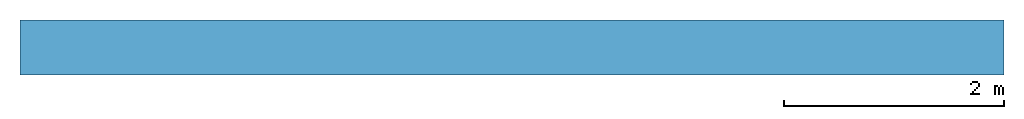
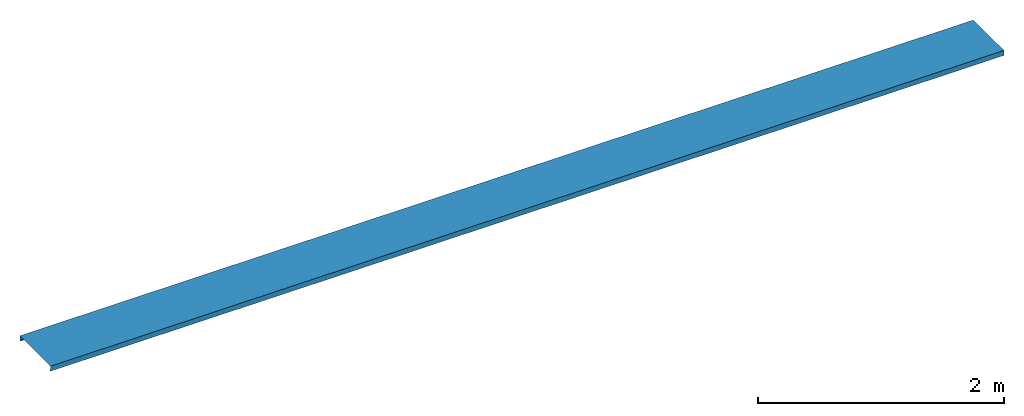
# One storey: 1 beam.
"""IFC4 building model written with IfcOpenShell, lengths in centimetres."""

import ifcopenshell
import ifcopenshell.guid

model = None  # the IFC model being written
_history = None  # IfcOwnerHistory: only IFC2X3 demands one
_inside = {}  # id of a spatial element -> (the spatial element, [elements in it])
_under = {}  # id of a project, library or spatial element -> (it, [spatial elements below it])
_declared = {}  # id of a project -> (the project, [libraries it declares])
_typed = {}  # id of a type object -> (the type object, [elements of that type])
_made_of = {}  # id of a material, layer set ... -> (it, [elements and type objects made of it])


def new_model(schema):
    """Start an empty IFC model of exactly this schema.

    Asked for "IFC4X3", IfcOpenShell would pick the latest addendum, in which some entities
    have other attributes; the version numbers below select the first issue.
    IFC2X3 requires an IfcOwnerHistory on every rooted entity: one is made here for all.
    """
    global model, _history
    if schema == "IFC4X3":
        model = ifcopenshell.file(schema_version=(4, 3, 0, 0))
    else:
        model = ifcopenshell.file(schema=schema)
    _inside.clear()
    _under.clear()
    _declared.clear()
    _typed.clear()
    _made_of.clear()
    _history = None
    if model.schema == "IFC2X3":
        org = make("IfcOrganization", Name="unknown")
        user = make(
            "IfcPersonAndOrganization",
            ThePerson=make("IfcPerson", FamilyName="unknown"),
            TheOrganization=org,
        )
        app = make(
            "IfcApplication",
            ApplicationDeveloper=org,
            Version="unknown",
            ApplicationFullName="unknown",
            ApplicationIdentifier="unknown",
        )
        _history = make(
            "IfcOwnerHistory",
            OwningUser=user,
            OwningApplication=app,
            ChangeAction="ADDED",
            CreationDate=0,
        )
    return model


def make(cls, **values):
    """One entity of the class cls with the attributes given. An attribute that is None is left unset."""
    return model.create_entity(
        cls, **{name: value for name, value in values.items() if value is not None}
    )


def entity(cls, *values):
    """Any entity or typed value of the class cls, its attributes in the order of the schema. None: left unset."""
    e = model.create_entity(cls)
    for i, value in enumerate(values):
        if value is not None:
            e[i] = value
    return e


def rooted(cls, **values):
    """An entity with a GlobalId (a new one), such as an element, a storey or a relation."""
    return make(cls, GlobalId=ifcopenshell.guid.new(), OwnerHistory=_history, **values)


def si_unit(unit_type, name, prefix=None):
    """IfcSIUnit, for example si_unit("LENGTHUNIT", "METRE", prefix="MILLI")."""
    return make("IfcSIUnit", UnitType=unit_type, Prefix=prefix, Name=name)


def converted_unit(unit_type, name, factor, base, dimensions=None, offset=None):
    """IfcConversionBasedUnit, such as the inch: factor (a typed value) times the base unit."""
    return make(
        "IfcConversionBasedUnit"
        if offset is None
        else "IfcConversionBasedUnitWithOffset",
        ConversionOffset=offset,
        Dimensions=None
        if dimensions is None
        else entity("IfcDimensionalExponents", *dimensions),
        UnitType=unit_type,
        Name=name,
        ConversionFactor=make(
            "IfcMeasureWithUnit", ValueComponent=factor, UnitComponent=base
        ),
    )


def assignment(units):
    """IfcUnitAssignment: the units of a project."""
    return None if units is None else make("IfcUnitAssignment", Units=units)


def point(xyz):
    """IfcCartesianPoint."""
    return None if xyz is None else make("IfcCartesianPoint", Coordinates=xyz)


def direction(xyz):
    """IfcDirection."""
    return None if xyz is None else make("IfcDirection", DirectionRatios=xyz)


def frame(location, z_axis=None, x_axis=None):
    """IfcAxis2Placement3D, a coordinate frame: its origin and axes. An axis left out is left unset."""
    return make(
        "IfcAxis2Placement3D",
        Location=point(location),
        Axis=direction(z_axis),
        RefDirection=direction(x_axis),
    )


def origin():
    """The frame at (0, 0, 0) with its axes left unset."""
    return frame((0.0, 0.0, 0.0))


def place(relative_to, where):
    """IfcLocalPlacement: puts the frame where relative to a parent placement (None: the world)."""
    return make(
        "IfcLocalPlacement", PlacementRelTo=relative_to, RelativePlacement=where
    )


def context(
    kind, dimensions, precision=None, world=None, true_north=None, identifier=None
):
    """IfcGeometricRepresentationContext, for example the 3D "Model" context."""
    return make(
        "IfcGeometricRepresentationContext",
        ContextIdentifier=identifier,
        ContextType=kind,
        CoordinateSpaceDimension=dimensions,
        Precision=precision,
        WorldCoordinateSystem=world,
        TrueNorth=true_north,
    )


def subcontext(parent, identifier, kind, view, scale=None):
    """IfcGeometricRepresentationSubContext, for example "Body" below "Model"."""
    return make(
        "IfcGeometricRepresentationSubContext",
        ContextIdentifier=identifier,
        ContextType=kind,
        ParentContext=parent,
        TargetScale=scale,
        TargetView=view,
    )


def project(units=None, contexts=None):
    """IfcProject with its units and contexts."""
    return rooted(
        "IfcProject",
        Name="project",
        RepresentationContexts=contexts,
        UnitsInContext=assignment(units),
    )


def spatial(cls, under=None, at=None, **own):
    """A site, building, storey or space (cls), placed at a placement, below another one or the project."""
    s = rooted(cls, ObjectPlacement=at, **own)
    if under is not None:
        _under.setdefault(under.id(), (under, []))[1].append(s)
    return s


def point_list(points):
    """IfcCartesianPointList2D or 3D."""
    cls = (
        "IfcCartesianPointList2D" if len(points[0]) == 2 else "IfcCartesianPointList3D"
    )
    return make(cls, CoordList=points)


def indexed_curve(points, segments=None, self_intersect=None):
    """IfcIndexedPolyCurve: lines and arcs through numbered points (the first is 1)."""
    return make(
        "IfcIndexedPolyCurve",
        Points=point_list(points),
        Segments=segments,
        SelfIntersect=self_intersect,
    )


def outline(outer, holes=None, kind="AREA"):
    """IfcArbitraryClosedProfileDef: a profile drawn as a closed curve; with holes, ...WithVoids."""
    if holes is None:
        return make("IfcArbitraryClosedProfileDef", ProfileType=kind, OuterCurve=outer)
    return make(
        "IfcArbitraryProfileDefWithVoids",
        ProfileType=kind,
        OuterCurve=outer,
        InnerCurves=holes,
    )


def extrude(swept, where, along, depth):
    """IfcExtrudedAreaSolid: the profile swept, set in the frame where, extruded along a direction by depth."""
    return make(
        "IfcExtrudedAreaSolid",
        SweptArea=swept,
        Position=where,
        ExtrudedDirection=direction(along),
        Depth=depth,
    )


def shape(context_of_items, identifier, shape_type, items):
    """IfcShapeRepresentation: the items that make up one representation, for example the "Body"."""
    return make(
        "IfcShapeRepresentation",
        ContextOfItems=context_of_items,
        RepresentationIdentifier=identifier,
        RepresentationType=shape_type,
        Items=items,
    )


def source(mapping_origin, context_of_items, identifier, shape_type, items):
    """IfcRepresentationMap: a shape defined once, which mapped items show again and again."""
    return make(
        "IfcRepresentationMap",
        MappingOrigin=mapping_origin,
        MappedRepresentation=shape(context_of_items, identifier, shape_type, items),
    )


def transform(
    local_origin,
    x_axis=None,
    y_axis=None,
    z_axis=None,
    scale=None,
    scale2=None,
    scale3=None,
    uniform=True,
):
    """IfcCartesianTransformationOperator3D, or its non-uniform kind. x_axis, y_axis, z_axis: its Axis1, 2, 3."""
    if uniform:
        return make(
            "IfcCartesianTransformationOperator3D",
            Axis1=direction(x_axis),
            Axis2=direction(y_axis),
            LocalOrigin=point(local_origin),
            Scale=scale,
            Axis3=direction(z_axis),
        )
    return make(
        "IfcCartesianTransformationOperator3DnonUniform",
        Axis1=direction(x_axis),
        Axis2=direction(y_axis),
        LocalOrigin=point(local_origin),
        Scale=scale,
        Axis3=direction(z_axis),
        Scale2=scale2,
        Scale3=scale3,
    )


def mapped(mapping_source, mapping_target):
    """IfcMappedItem: shows the shape of a source again, moved by a transform."""
    return make(
        "IfcMappedItem", MappingSource=mapping_source, MappingTarget=mapping_target
    )


def material(Name=None, Category=None):
    """IfcMaterial."""
    return make("IfcMaterial", Name=Name, Category=Category)


def made_of(thing, what):
    """Note that an element or type object is made of a material, layer set ...; save() writes the relation."""
    if what is not None:
        _made_of.setdefault(what.id(), (what, []))[1].append(thing)
    return thing


def type_object(cls, material=None, **own):
    """A type object (cls), such as IfcWallType, which elements share."""
    return made_of(rooted(cls, **own), material)


def type_shapes(of_type, sources):
    """Give a type object the sources (RepresentationMaps) that its elements show as mapped items."""
    of_type.RepresentationMaps = sources


def element(
    cls,
    number,
    at=None,
    inside=None,
    cuts=None,
    type_object=None,
    material=None,
    context=None,
    identifier="Body",
    shape_type=None,
    held_by="IfcProductDefinitionShape",
    body=None,
    shapes=None,
    **own,
):
    """One element of the class cls, such as IfcWall. Its Tag is "e" and its number.

    at: its placement. inside: the storey or other place that contains it. cuts: it is an
    opening in that element (IfcRelVoidsElement). A single representation is given by context,
    identifier, shape_type and body (its items); several are given by shapes. held_by: the class
    of the entity that holds the representations. save() writes the other relations.
    """
    e = rooted(cls, Tag="e%d" % number, ObjectPlacement=at, **own)
    if body is not None:
        shapes = [shape(context, identifier, shape_type, body)]
    if shapes is not None:
        e.Representation = make(held_by, Representations=shapes)
    if inside is not None:
        _inside.setdefault(inside.id(), (inside, []))[1].append(e)
    if cuts is not None:
        rooted(
            "IfcRelVoidsElement", RelatingBuildingElement=cuts, RelatedOpeningElement=e
        )
    if type_object is not None:
        _typed.setdefault(type_object.id(), (type_object, []))[1].append(e)
    return made_of(e, material)


def aggregate(whole, parts):
    """IfcRelAggregates: a whole, such as a stair, and the parts it consists of."""
    return rooted("IfcRelAggregates", RelatingObject=whole, RelatedObjects=parts)


def save(model, path):
    """Write the relations noted so far, then the file.

    IfcRelAggregates (storeys below a building ...), IfcRelContainedInSpatialStructure (elements
    in a storey), IfcRelDefinesByType, IfcRelAssociatesMaterial and IfcRelDeclares: one each for
    every whole, place, type object, material and project.
    """
    for whole, parts in _under.values():
        aggregate(whole, parts)
    for where, things in _inside.values():
        rooted(
            "IfcRelContainedInSpatialStructure",
            RelatedElements=things,
            RelatingStructure=where,
        )
    for kind, things in _typed.values():
        rooted("IfcRelDefinesByType", RelatedObjects=things, RelatingType=kind)
    for what, things in _made_of.values():
        rooted("IfcRelAssociatesMaterial", RelatedObjects=things, RelatingMaterial=what)
    for by, libraries in _declared.values():
        rooted("IfcRelDeclares", RelatingContext=by, RelatedDefinitions=libraries)
    model.write(path)


model = new_model("IFC4")

# Units and contexts
model_context = context("Model", 3, precision=0.001, world=origin(), true_north=direction((0.0, 1.0)))
body_context = subcontext(model_context, "Body", "Model", "MODEL_VIEW")
ifc_project = project(units=[si_unit("LENGTHUNIT", "METRE", prefix="CENTI"), si_unit("AREAUNIT", "SQUARE_METRE"), si_unit("VOLUMEUNIT", "CUBIC_METRE"), converted_unit("PLANEANGLEUNIT", "DEGREE", entity("IfcPlaneAngleMeasure", 0.017453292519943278), si_unit("PLANEANGLEUNIT", "RADIAN"), dimensions=[0, 0, 0, 0, 0, 0, 0])], contexts=[model_context])

# Site, building, storey
site_placement = place(None, origin())
site = spatial("IfcSite", under=ifc_project, at=site_placement, Name="Default", CompositionType="ELEMENT")
building_placement = place(site_placement, origin())
building = spatial("IfcBuilding", under=site, at=building_placement, CompositionType="ELEMENT")
storey_placement = place(building_placement, frame((0.0, 0.0, -12.0)))
storey = spatial("IfcBuildingStorey", under=building, at=storey_placement, Name="L00__ABOVE Slab", CompositionType="ELEMENT", Elevation=-12.000000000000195)

# Beam
ifc_material = material(Name="_SILL__Sill__Metal", Category="Miscellaneous")
beam_type = type_object("IfcBeamType", Name="Structural Framing : wll__PARAPET CAP__Metal__sf : Wall Coping w/ H 50mm Nose, Standing Seam Profile", PredefinedType="BEAM", material=ifc_material)
shared_shape = source(origin(), body_context, "Body", "SweptSolid", [
    extrude(outline(indexed_curve([(-3.4250000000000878, -24.90000000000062), (1.5749999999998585, -24.90000000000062), (1.5749999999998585, -24.100000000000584), (0.37499999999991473, -24.100000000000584), (0.37499999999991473, -24.30000000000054), (1.3749999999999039, -24.30000000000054), (1.3749999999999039, -24.700000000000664), (-3.225000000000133, -24.700000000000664), (-3.225000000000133, 24.699999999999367), (1.3749999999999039, 24.699999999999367), (1.3749999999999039, 24.29999999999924), (0.37499999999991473, 24.29999999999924), (0.37499999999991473, 24.099999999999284), (1.5749999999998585, 24.099999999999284), (1.5749999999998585, 24.89999999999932), (-3.4250000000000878, 24.89999999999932), (-3.4250000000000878, -24.90000000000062)], self_intersect=False)), frame((2766.707325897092, 1813.202254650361, 899.7750000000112), z_axis=(-1.0, 0.0, 0.0), x_axis=(0.0, 0.0, -1.0)), (0.0, 0.0, 1.0), 893.9999999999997),
])
type_shapes(beam_type, [shared_shape])
beam_placement = place(storey_placement, frame((0.0, 0.0, 12.0)))
element("IfcBeam", 1, at=beam_placement, inside=storey, type_object=beam_type, material=ifc_material, Name="Structural Framing : wll__PARAPET CAP__Metal__sf : Wall Coping w/ H 50mm Nose, Standing Seam Profile", PredefinedType="BEAM", context=body_context, shape_type="MappedRepresentation", body=[
    mapped(shared_shape, transform((0.0, 0.0, 0.0), scale=1.0)),
])

save(model, "model.ifc")
